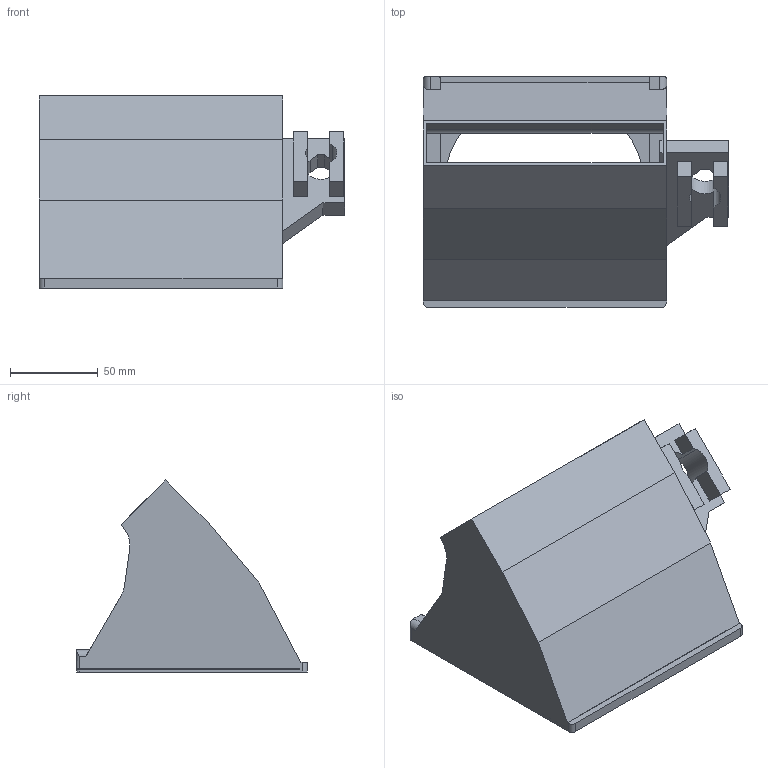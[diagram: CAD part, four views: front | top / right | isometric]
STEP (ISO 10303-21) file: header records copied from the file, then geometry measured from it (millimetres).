
FILE_DESCRIPTION(('FreeCAD Model'),'2;1');
FILE_NAME('Open CASCADE Shape Model','2026-09-08T07:02:36',('FreeCAD'),( 'FreeCAD'),'Open CASCADE STEP processor 7.8','FreeCAD','Unknown');
FILE_SCHEMA(('AUTOMOTIVE_DESIGN { 1 0 10303 214 1 1 1 1 }'));
Length unit declared in the file: millimetre
Products named in the file (1): Open CASCADE STEP translator 7.8 4
Bounding box: 174.5 x 131.7 x 109.64 mm (x, y, z)
Volume: 135751.6 mm3; surface area: 118655.3 mm2
Topology: 1 solids, 1 shells, 111 faces, 321 edges, 217 vertices
Faces by surface type: plane 90, cylinder 21
Full cylindrical faces by diameter (mm): 4.1 x2, 116 x1
Entity records: 3718 total; most frequent: CARTESIAN_POINT 755, ORIENTED_EDGE 642, DIRECTION 581, EDGE_CURVE 321, LINE 229, VECTOR 229, VERTEX_POINT 217, AXIS2_PLACEMENT_3D 176
